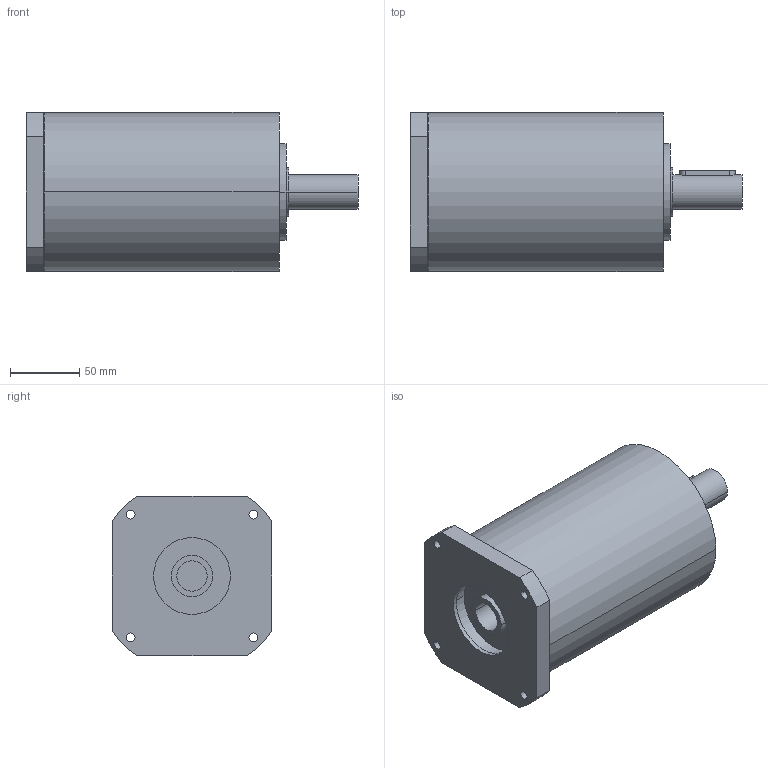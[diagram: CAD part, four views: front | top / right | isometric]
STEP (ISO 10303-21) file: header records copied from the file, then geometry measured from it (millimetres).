
FILE_DESCRIPTION(('CoCreate Modeling STEP Export'),'2;1');
FILE_NAME('GPR125_ig-9-12-16-20-28-35_25_B14_22_P01.stp','2014-08-26T14:10:54',(''),(''),'CoCreate Modeling STEP processor for AP214 (Solid Model)','CoCreate Modeling 16.00C 25-Feb-2009 (C) Parametric Technology GmbH','');
FILE_SCHEMA(('AUTOMOTIVE_DESIGN { 1 0 10303 214 1 1 1 1 }'));
Length unit declared in the file: millimetre
Products named in the file (2): GPR125_ig-9-12-16-20-28-35_25_B14_22_P01
Assembly tree (1 placements, depth 2):
  GPR125_ig-9-12-16-20-28-35_25_B14_22_P01
    GPR125_ig-9-12-16-20-28-35_25_B14_22_P01
Bounding box: 240 x 115 x 115 mm (x, y, z)
Volume: 1917134 mm3; surface area: 109462.2 mm2
Topology: 1 solids, 1 shells, 77 faces, 209 edges, 149 vertices
Faces by surface type: cylinder 48, plane 25, cone 4
Entity records: 2138 total; most frequent: ORIENTED_EDGE 414, CARTESIAN_POINT 396, DIRECTION 288, EDGE_CURVE 207, VERTEX_POINT 149, AXIS2_PLACEMENT_3D 109, EDGE_LOOP 102, FACE_OUTER_BOUND 77
